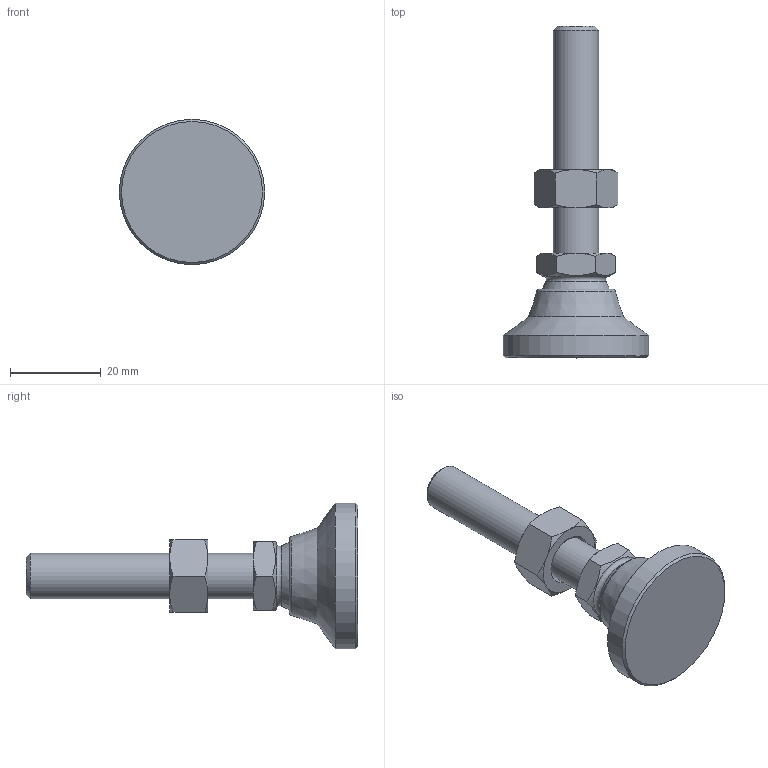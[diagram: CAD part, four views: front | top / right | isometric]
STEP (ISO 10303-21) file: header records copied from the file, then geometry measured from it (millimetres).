
FILE_DESCRIPTION( ( 'STEP AP214' ), ' ' );
FILE_NAME( 'O:/ganter_2015/teil_2/2_5/gn343_2/gn343_2_os/Levelling foot with threaded stud GN 343.2-32-M10-50-OS-(0).stp', '2015-10-26T09:06:55', ( '' ), ( '' ), ' ', 'PARTsolutions', ' ' );
FILE_SCHEMA( ( 'AUTOMOTIVE_DESIGN { 1 0 10303 214 1 1 1 1 }' ) );
Length unit declared in the file: millimetre
Products named in the file (4): Levelling foot with threaded stud GN 343.2-32-M10-50-OS-(0); _Levelling foot with threaded stud GN 343.2-32-M10-50-OS-(0)_foot; _Levelling foot with threaded stud GN 343.2-32-M10-50-OS-(0)_screw; _Stainless Steel-Levelling feet GN 343.2-32-M10-50-OS-(0)_nut
Assembly tree (3 placements, depth 2):
  Levelling foot with threaded stud GN 343.2-32-M10-50-OS-(0)
    _Levelling foot with threaded stud GN 343.2-32-M10-50-OS-(0)_foot
    _Levelling foot with threaded stud GN 343.2-32-M10-50-OS-(0)_screw
    _Stainless Steel-Levelling feet GN 343.2-32-M10-50-OS-(0)_nut
Bounding box: 32 x 73 x 32 mm (x, y, z)
Volume: 14646.8 mm3; surface area: 6394 mm2
Topology: 3 solids, 3 shells, 50 faces, 107 edges, 63 vertices
Faces by surface type: cone 25, plane 18, cylinder 3, torus 2, sphere 2
Full cylindrical faces by diameter (mm): 8.376 x1, 10 x1, 32 x1
Entity records: 1874 total; most frequent: CARTESIAN_POINT 468, DIRECTION 188, ORIENTED_EDGE 176, AXIS2_PLACEMENT_3D 88, EDGE_CURVE 88, EDGE_LOOP 66, VERTEX_POINT 60, FACE_OUTER_BOUND 55
